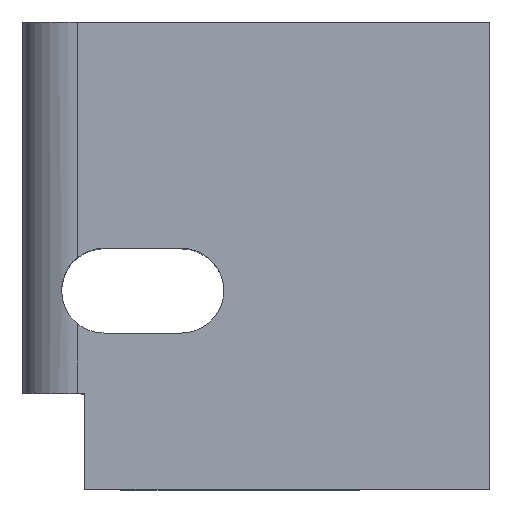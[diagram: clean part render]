
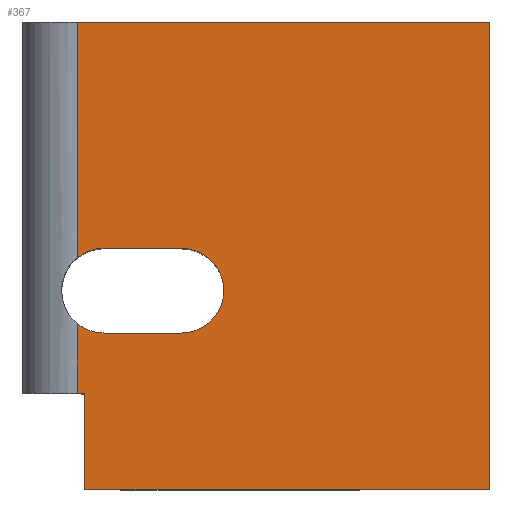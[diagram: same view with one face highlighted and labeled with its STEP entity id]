
A CAD part, top view. The second image highlights one B-rep face of the part: STEP entity #367.
In plain terms, the highlighted planar face has unit normal (0, 0, 1).
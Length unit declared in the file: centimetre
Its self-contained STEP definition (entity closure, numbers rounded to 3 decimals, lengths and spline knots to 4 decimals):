
#5 = DIRECTION ( 'NONE',  ( 0., -1., 0. ) ) ;
#6 = VECTOR ( 'NONE', #941, 100. ) ;
#28 = LINE ( 'NONE', #462, #643 ) ;
#44 = ORIENTED_EDGE ( 'NONE', *, *, #1247, .F. ) ;
#80 = ORIENTED_EDGE ( 'NONE', *, *, #1043, .T. ) ;
#103 = DIRECTION ( 'NONE',  ( 0., 0., -1. ) ) ;
#106 = LINE ( 'NONE', #543, #327 ) ;
#110 = EDGE_CURVE ( 'NONE', #205, #977, #1371, .T. ) ;
#113 = DIRECTION ( 'NONE',  ( 0., 1., 0. ) ) ;
#120 = CARTESIAN_POINT ( 'NONE',  ( 340.4824, 334.2285, 1000. ) ) ;
#128 = DIRECTION ( 'NONE',  ( 1., 0., 0. ) ) ;
#148 = CARTESIAN_POINT ( 'NONE',  ( 0., 205.3388, 1000. ) ) ;
#168 = ORIENTED_EDGE ( 'NONE', *, *, #427, .T. ) ;
#175 = VERTEX_POINT ( 'NONE', #1094 ) ;
#205 = VERTEX_POINT ( 'NONE', #635 ) ;
#212 = CARTESIAN_POINT ( 'NONE',  ( 0., 0., 1000. ) ) ;
#229 = DIRECTION ( 'NONE',  ( 0., 0., 1. ) ) ;
#242 = VECTOR ( 'NONE', #1049, 100. ) ;
#249 = EDGE_CURVE ( 'NONE', #1298, #862, #300, .T. ) ;
#300 = LINE ( 'NONE', #212, #6 ) ;
#308 = CARTESIAN_POINT ( 'NONE',  ( 340.4824, 424.8793, 1000. ) ) ;
#321 = EDGE_CURVE ( 'NONE', #1174, #1285, #1061, .T. ) ;
#327 = VECTOR ( 'NONE', #113, 100. ) ;
#329 = DIRECTION ( 'NONE',  ( 0., -1., 0. ) ) ;
#341 = CARTESIAN_POINT ( 'NONE',  ( 133.7975, 0., 1000. ) ) ;
#342 = VERTEX_POINT ( 'NONE', #120 ) ;
#364 = EDGE_CURVE ( 'NONE', #175, #1174, #1324, .T. ) ;
#367 = ADVANCED_FACE ( 'NONE', ( #1201 ), #693, .T. ) ;
#368 = VERTEX_POINT ( 'NONE', #1098 ) ;
#371 = VECTOR ( 'NONE', #554, 100. ) ;
#392 = EDGE_CURVE ( 'NONE', #1285, #368, #28, .T. ) ;
#398 = ORIENTED_EDGE ( 'NONE', *, *, #1116, .T. ) ;
#401 = DIRECTION ( 'NONE',  ( 1., 0., 0. ) ) ;
#413 = ORIENTED_EDGE ( 'NONE', *, *, #249, .T. ) ;
#417 = DIRECTION ( 'NONE',  ( 0., 0., -1. ) ) ;
#422 = ORIENTED_EDGE ( 'NONE', *, *, #110, .T. ) ;
#426 = CARTESIAN_POINT ( 'NONE',  ( 117.9196, 0., 1000. ) ) ;
#427 = EDGE_CURVE ( 'NONE', #368, #342, #967, .T. ) ;
#445 = EDGE_CURVE ( 'NONE', #862, #914, #636, .T. ) ;
#462 = CARTESIAN_POINT ( 'NONE',  ( 340.4824, 515.53, 1000. ) ) ;
#474 = VERTEX_POINT ( 'NONE', #1215 ) ;
#528 = LINE ( 'NONE', #828, #884 ) ;
#530 = ORIENTED_EDGE ( 'NONE', *, *, #321, .T. ) ;
#543 = CARTESIAN_POINT ( 'NONE',  ( 133.7975, 0., 1000. ) ) ;
#552 = CARTESIAN_POINT ( 'NONE',  ( 174.7258, 515.53, 1000. ) ) ;
#554 = DIRECTION ( 'NONE',  ( 0., 1., 0. ) ) ;
#571 = CARTESIAN_POINT ( 'NONE',  ( 174.7258, 424.8793, 1000. ) ) ;
#573 = DIRECTION ( 'NONE',  ( 1., 0., 0. ) ) ;
#593 = VERTEX_POINT ( 'NONE', #873 ) ;
#600 = AXIS2_PLACEMENT_3D ( 'NONE', #1115, #229, #670 ) ;
#635 = CARTESIAN_POINT ( 'NONE',  ( 174.7258, 334.2285, 1000. ) ) ;
#636 = LINE ( 'NONE', #739, #371 ) ;
#643 = VECTOR ( 'NONE', #573, 100. ) ;
#670 = DIRECTION ( 'NONE',  ( 1., 0., 0. ) ) ;
#686 = CARTESIAN_POINT ( 'NONE',  ( 1000., 0., 1000. ) ) ;
#693 = PLANE ( 'NONE',  #600 ) ;
#725 = DIRECTION ( 'NONE',  ( -1., 0., 0. ) ) ;
#734 = LINE ( 'NONE', #1260, #242 ) ;
#739 = CARTESIAN_POINT ( 'NONE',  ( 1000., 1000., 1000. ) ) ;
#773 = DIRECTION ( 'NONE',  ( 0., 0., -1. ) ) ;
#815 = VECTOR ( 'NONE', #329, 100. ) ;
#823 = ORIENTED_EDGE ( 'NONE', *, *, #364, .T. ) ;
#828 = CARTESIAN_POINT ( 'NONE',  ( 174.7258, 334.2285, 1000. ) ) ;
#836 = LINE ( 'NONE', #426, #996 ) ;
#860 = CARTESIAN_POINT ( 'NONE',  ( 117.9196, 495.5236, 1000. ) ) ;
#862 = VERTEX_POINT ( 'NONE', #686 ) ;
#873 = CARTESIAN_POINT ( 'NONE',  ( 117.9196, 205.3388, 1000. ) ) ;
#884 = VECTOR ( 'NONE', #725, 100. ) ;
#905 = AXIS2_PLACEMENT_3D ( 'NONE', #926, #103, #401 ) ;
#914 = VERTEX_POINT ( 'NONE', #1242 ) ;
#926 = CARTESIAN_POINT ( 'NONE',  ( 174.7258, 424.8793, 1000. ) ) ;
#941 = DIRECTION ( 'NONE',  ( 1., 0., 0. ) ) ;
#966 = CARTESIAN_POINT ( 'NONE',  ( 117.9196, 0., 1000. ) ) ;
#967 = CIRCLE ( 'NONE', #1317, 90.6507 ) ;
#977 = VERTEX_POINT ( 'NONE', #1026 ) ;
#996 = VECTOR ( 'NONE', #5, 100. ) ;
#1011 = EDGE_LOOP ( 'NONE', ( #530, #1195, #168, #398, #422, #80, #44, #1352, #413, #1345, #1304, #823 ) ) ;
#1026 = CARTESIAN_POINT ( 'NONE',  ( 117.9196, 354.235, 1000. ) ) ;
#1043 = EDGE_CURVE ( 'NONE', #977, #593, #836, .T. ) ;
#1049 = DIRECTION ( 'NONE',  ( -1., 0., 0. ) ) ;
#1061 = CIRCLE ( 'NONE', #905, 90.6507 ) ;
#1081 = EDGE_CURVE ( 'NONE', #914, #175, #734, .T. ) ;
#1094 = CARTESIAN_POINT ( 'NONE',  ( 117.9196, 1000., 1000. ) ) ;
#1096 = DIRECTION ( 'NONE',  ( -1., 0., 0. ) ) ;
#1098 = CARTESIAN_POINT ( 'NONE',  ( 340.4824, 515.53, 1000. ) ) ;
#1115 = CARTESIAN_POINT ( 'NONE',  ( 0., 0., 1000. ) ) ;
#1116 = EDGE_CURVE ( 'NONE', #342, #205, #528, .T. ) ;
#1119 = LINE ( 'NONE', #148, #1139 ) ;
#1132 = AXIS2_PLACEMENT_3D ( 'NONE', #571, #773, #1341 ) ;
#1139 = VECTOR ( 'NONE', #1096, 100. ) ;
#1157 = EDGE_CURVE ( 'NONE', #1298, #474, #106, .T. ) ;
#1174 = VERTEX_POINT ( 'NONE', #860 ) ;
#1195 = ORIENTED_EDGE ( 'NONE', *, *, #392, .T. ) ;
#1201 = FACE_OUTER_BOUND ( 'NONE', #1011, .T. ) ;
#1215 = CARTESIAN_POINT ( 'NONE',  ( 133.7975, 205.3388, 1000. ) ) ;
#1242 = CARTESIAN_POINT ( 'NONE',  ( 1000., 1000., 1000. ) ) ;
#1247 = EDGE_CURVE ( 'NONE', #474, #593, #1119, .T. ) ;
#1260 = CARTESIAN_POINT ( 'NONE',  ( 0., 1000., 1000. ) ) ;
#1285 = VERTEX_POINT ( 'NONE', #552 ) ;
#1298 = VERTEX_POINT ( 'NONE', #341 ) ;
#1304 = ORIENTED_EDGE ( 'NONE', *, *, #1081, .T. ) ;
#1317 = AXIS2_PLACEMENT_3D ( 'NONE', #308, #417, #128 ) ;
#1324 = LINE ( 'NONE', #966, #815 ) ;
#1341 = DIRECTION ( 'NONE',  ( 1., 0., 0. ) ) ;
#1345 = ORIENTED_EDGE ( 'NONE', *, *, #445, .T. ) ;
#1352 = ORIENTED_EDGE ( 'NONE', *, *, #1157, .F. ) ;
#1371 = CIRCLE ( 'NONE', #1132, 90.6507 ) ;
